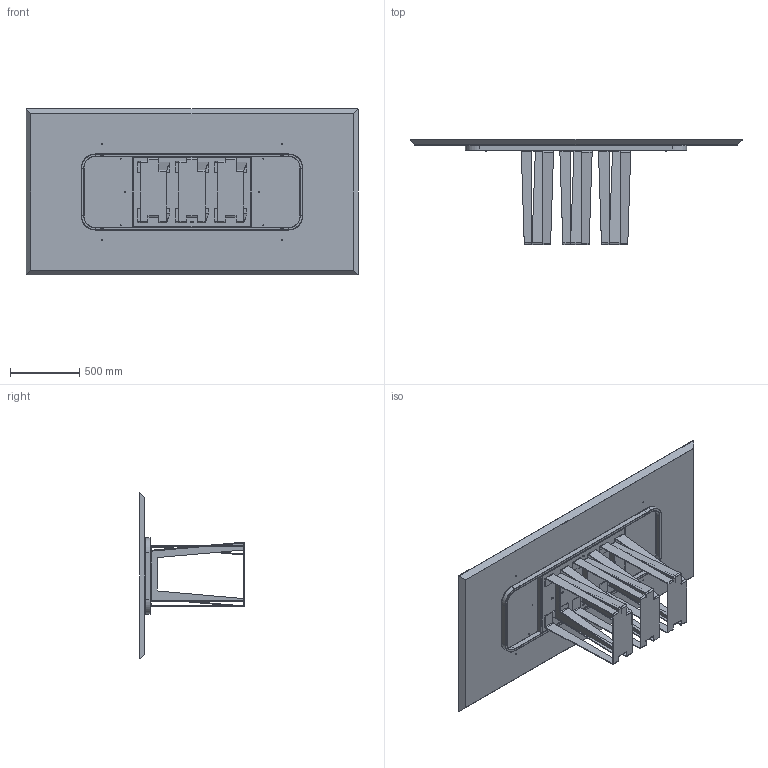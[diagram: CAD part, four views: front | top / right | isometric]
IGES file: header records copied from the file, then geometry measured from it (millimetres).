
Start section: SolidWorks IGES file using analytic representation for surfaces
Global section: file name: Y:\eforma\TECNICO\SOLIDWORKS\E-FORMA\1-TAVOLI\NARCISO\02 parts\NA23W.IGS; native system: SolidWorks 2022; preprocessor: SolidWorks 2022; author: eforma.tech; date: 240807.163915; units: millimetre
Bounding box: 2400 x 758 x 1200 mm (x, y, z)
Volume: 116659162.4 mm3; surface area: 10800716.2 mm2
Topology: 26 solids, 26 shells, 1143 faces, 2805 edges, 1689 vertices
Faces by surface type: plane 585, revolution 522, bspline 36
